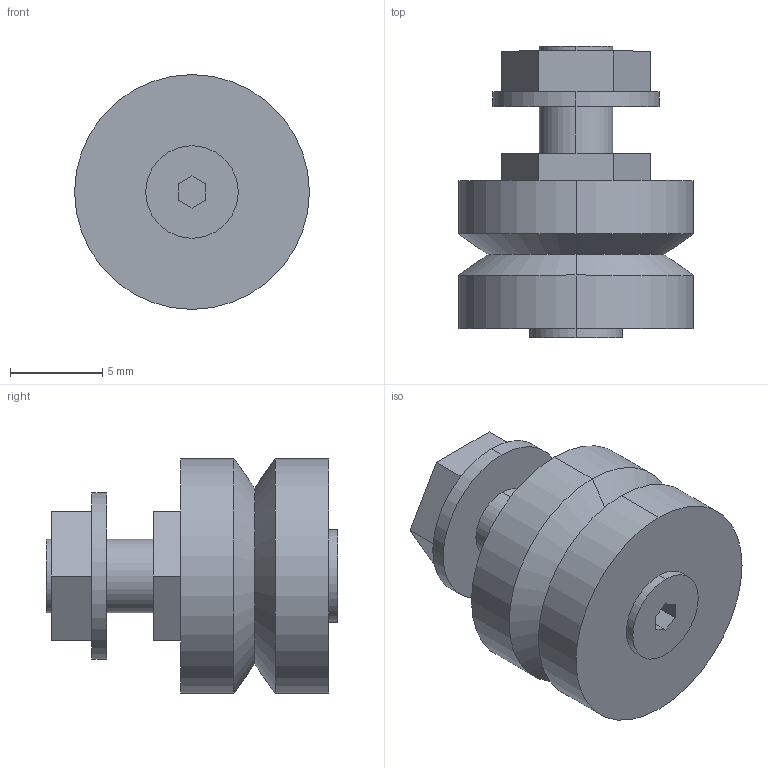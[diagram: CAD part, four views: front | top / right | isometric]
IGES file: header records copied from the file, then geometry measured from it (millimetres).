
Start section: 3D InterOp IGES (v. 2019 1.0.2), Spatial Corp. Copyright (c) 1999-2017.
Global section: file name: SS SJ13 C.igs; native system: Spatial Corp.; preprocessor: 3D InterOp GENERIC/IGES 3.0; author: Noname; organization: Noname; date: 20220628.114801; units: millimetre
Bounding box: 12.7 x 15.77 x 12.7 mm (x, y, z)
Surface area: 886.4 mm2 (no closed solid volume)
Topology: 0 solids, 0 shells, 43 faces, 192 edges, 192 vertices
Faces by surface type: extrusion 27, revolution 16
